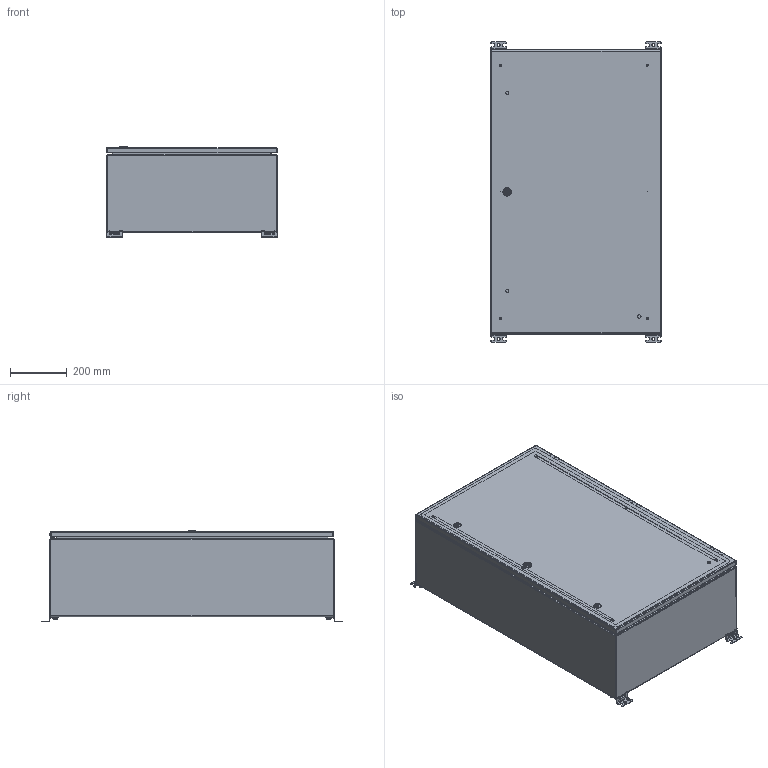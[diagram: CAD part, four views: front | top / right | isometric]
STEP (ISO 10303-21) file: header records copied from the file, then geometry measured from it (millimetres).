
FILE_DESCRIPTION(('STEP AP242'), '1');
FILE_NAME('400 ﾙﾌﾏ-1 (IP-56)', '', ('UNSPECIFIED'), ('UNSPECIFIED'), 'C3D Converter', 'C3D Toolkit', '');
FILE_SCHEMA(('AP242_MANAGED_MODEL_BASED_3D_ENGINEERING_MIM_LF { 1 0 10303 442 1 1 4 }'));
Length unit declared in the file: millimetre
Products named in the file (54): ЩМП-1-Ф СБ; 410-Ф; 420; 421; 411-Ф; 412; 490; 491; 401; 440-Ф; 441-Ф; 402; 450; 451; ЦИУЛ.210677.00.03-03; 452
Assembly tree (125 placements, depth 4):
  ЩМП-1-Ф СБ
    410-Ф
      420
        421
        (unnamed)  x6
        (unnamed)
      411-Ф
      412
    490  x2
      491
      (unnamed)
      (unnamed)
      (unnamed)
      (unnamed)
      (unnamed)
    490  x2
      491
      (unnamed)
      (unnamed)
      (unnamed)
      (unnamed)
      (unnamed)
    401
    (unnamed)  x6
    (unnamed)  x6
    (unnamed)  x6
    (unnamed)  x3
      (unnamed)
      (unnamed)
      (unnamed)
    (unnamed)  x6
    440-Ф
      441-Ф
      (unnamed)
      (unnamed)  x6
      (unnamed)  x2
      (unnamed)  x3
    402  x2
    (unnamed)  x6
    (unnamed)  x6
    (unnamed)  x2
    (unnamed)
      (unnamed)
      (unnamed)
      (unnamed)
      (unnamed)
      (unnamed)
    (unnamed)
    (unnamed)  x2
      (unnamed)
      (unnamed)
      (unnamed)
    (unnamed)  x2
    (unnamed)  x2
    450
      451
      (unnamed)  x3
      (unnamed)  x2
      (unnamed)  x2
      (unnamed)  x3
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Bounding box: 600 x 1056 x 323.1 mm (x, y, z)
Volume: 5058761.9 mm3; surface area: 6078652.9 mm2
Topology: 137 solids, 139 shells, 2760 faces, 6450 edges, 4041 vertices
Faces by surface type: plane 1492, cylinder 814, cone 266, torus 75, bspline 70, sphere 43
Full cylindrical faces by diameter (mm): 0.5 x6, 2.6 x4, 3.3 x1, 3.5 x136, 4 x5, 4.134 x5, 4.2 x7, 4.85 x2, 4.917 x6, 5 x18, 5.3 x2, 5.5 x15, 5.75 x3, 5.8 x1, 6 x25, 6.4 x6, 6.5 x4, 6.647 x10, 7 x9, 7.3 x6, 7.4 x1, 7.5 x9, 7.9 x4, 8 x21, 8.3 x2, 8.4 x10, 8.5 x23, 9 x14, 10 x16, 10.4 x1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
Entity records: 84509 total; most frequent: CARTESIAN_POINT 43808, DIRECTION 6736, ORIENTED_EDGE 6384, EDGE_CURVE 3192, AXIS2_PLACEMENT_3D 2562, VERTEX_POINT 2154, EDGE_LOOP 1998, LINE 1612
